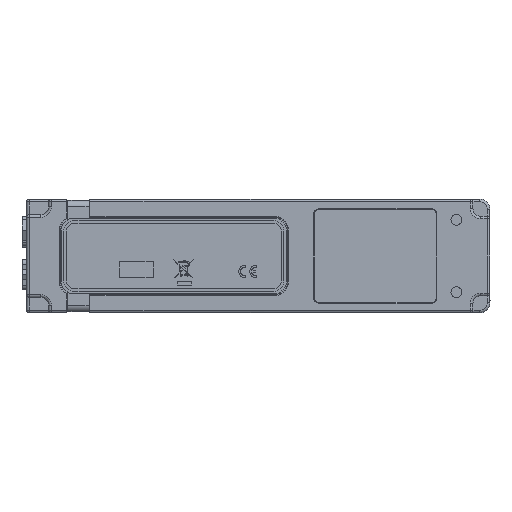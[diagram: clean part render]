
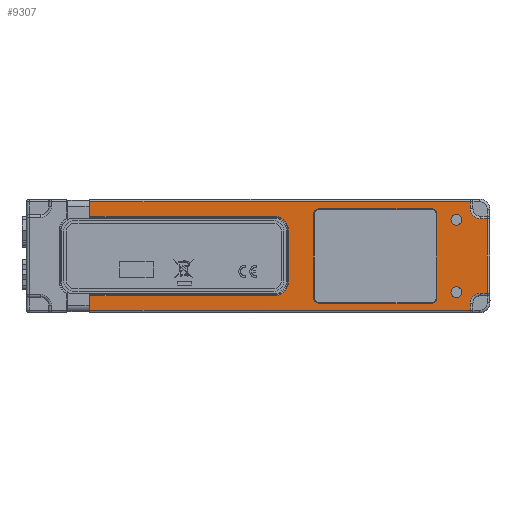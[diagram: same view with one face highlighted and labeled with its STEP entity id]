
A CAD part, left-side view. The second image highlights one B-rep face of the part: STEP entity #9307.
In plain terms, the highlighted planar face has unit normal (-1, 0, 0).
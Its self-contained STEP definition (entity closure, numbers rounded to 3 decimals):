
#7644=CIRCLE('',#44879,1.8);
#7647=CIRCLE('',#44884,1.8);
#7650=CIRCLE('',#44889,1.8);
#7652=CIRCLE('',#44893,1.8);
#7656=CIRCLE('',#44899,4.);
#7659=CIRCLE('',#44905,4.);
#7663=CIRCLE('',#44910,5.3);
#7666=CIRCLE('',#44915,5.3);
#7667=CIRCLE('',#44917,2.1);
#7668=CIRCLE('',#44919,2.1);
#9307=ADVANCED_FACE('',(#10590,#10591,#10592,#10593),#10042,.T.);
#10042=PLANE('',#44965);
#10590=FACE_BOUND('',#11474,.T.);
#10591=FACE_BOUND('',#11475,.T.);
#10592=FACE_BOUND('',#11476,.T.);
#10593=FACE_BOUND('',#11477,.T.);
#11474=EDGE_LOOP('',(#26600,#26601,#26602,#26603,#26604,#26605,#26606,#26607));
#11475=EDGE_LOOP('',(#26608,#26609,#26610,#26611,#26612,#26613,#26614,#26615,
#26616,#26617,#26618,#26619,#26620,#26621,#26622,#26623));
#11476=EDGE_LOOP('',(#26624));
#11477=EDGE_LOOP('',(#26625));
#26600=ORIENTED_EDGE('',*,*,#39496,.T.);
#26601=ORIENTED_EDGE('',*,*,#39498,.T.);
#26602=ORIENTED_EDGE('',*,*,#39500,.T.);
#26603=ORIENTED_EDGE('',*,*,#39502,.T.);
#26604=ORIENTED_EDGE('',*,*,#39504,.T.);
#26605=ORIENTED_EDGE('',*,*,#39506,.T.);
#26606=ORIENTED_EDGE('',*,*,#39508,.T.);
#26607=ORIENTED_EDGE('',*,*,#39509,.T.);
#26608=ORIENTED_EDGE('',*,*,#39567,.T.);
#26609=ORIENTED_EDGE('',*,*,#39602,.T.);
#26610=ORIENTED_EDGE('',*,*,#39603,.T.);
#26611=ORIENTED_EDGE('',*,*,#39511,.T.);
#26612=ORIENTED_EDGE('',*,*,#39515,.T.);
#26613=ORIENTED_EDGE('',*,*,#39516,.T.);
#26614=ORIENTED_EDGE('',*,*,#39551,.T.);
#26615=ORIENTED_EDGE('',*,*,#39518,.T.);
#26616=ORIENTED_EDGE('',*,*,#39521,.T.);
#26617=ORIENTED_EDGE('',*,*,#39533,.T.);
#26618=ORIENTED_EDGE('',*,*,#39604,.T.);
#26619=ORIENTED_EDGE('',*,*,#39605,.T.);
#26620=ORIENTED_EDGE('',*,*,#39601,.T.);
#26621=ORIENTED_EDGE('',*,*,#39525,.T.);
#26622=ORIENTED_EDGE('',*,*,#39527,.T.);
#26623=ORIENTED_EDGE('',*,*,#39529,.T.);
#26624=ORIENTED_EDGE('',*,*,#39530,.T.);
#26625=ORIENTED_EDGE('',*,*,#39531,.T.);
#33507=VERTEX_POINT('',#78937);
#33510=VERTEX_POINT('',#78944);
#33540=VERTEX_POINT('',#79021);
#33541=VERTEX_POINT('',#79023);
#33542=VERTEX_POINT('',#79027);
#33543=VERTEX_POINT('',#79031);
#33544=VERTEX_POINT('',#79035);
#33545=VERTEX_POINT('',#79039);
#33546=VERTEX_POINT('',#79043);
#33547=VERTEX_POINT('',#79047);
#33548=VERTEX_POINT('',#79053);
#33549=VERTEX_POINT('',#79055);
#33551=VERTEX_POINT('',#79061);
#33553=VERTEX_POINT('',#79068);
#33555=VERTEX_POINT('',#79074);
#33556=VERTEX_POINT('',#79079);
#33557=VERTEX_POINT('',#79081);
#33558=VERTEX_POINT('',#79085);
#33559=VERTEX_POINT('',#79089);
#33560=VERTEX_POINT('',#79093);
#33561=VERTEX_POINT('',#79096);
#33563=VERTEX_POINT('',#79100);
#33583=VERTEX_POINT('',#79181);
#33604=VERTEX_POINT('',#79249);
#33605=VERTEX_POINT('',#79253);
#33606=VERTEX_POINT('',#79256);
#39496=EDGE_CURVE('',#33540,#33541,#41467,.T.);
#39498=EDGE_CURVE('',#33541,#33542,#7644,.T.);
#39500=EDGE_CURVE('',#33542,#33543,#41468,.T.);
#39502=EDGE_CURVE('',#33543,#33544,#7647,.T.);
#39504=EDGE_CURVE('',#33544,#33545,#41469,.T.);
#39506=EDGE_CURVE('',#33545,#33546,#7650,.T.);
#39508=EDGE_CURVE('',#33546,#33547,#41470,.T.);
#39509=EDGE_CURVE('',#33547,#33540,#7652,.T.);
#39511=EDGE_CURVE('',#33549,#33548,#41471,.T.);
#39515=EDGE_CURVE('',#33548,#33551,#7656,.T.);
#39516=EDGE_CURVE('',#33551,#33510,#41473,.T.);
#39518=EDGE_CURVE('',#33507,#33553,#41474,.T.);
#39521=EDGE_CURVE('',#33553,#33555,#7659,.T.);
#39525=EDGE_CURVE('',#33556,#33557,#7663,.T.);
#39527=EDGE_CURVE('',#33557,#33558,#41476,.T.);
#39529=EDGE_CURVE('',#33558,#33559,#7666,.T.);
#39530=EDGE_CURVE('',#33560,#33560,#7667,.T.);
#39531=EDGE_CURVE('',#33561,#33561,#7668,.T.);
#39533=EDGE_CURVE('',#33555,#33563,#41477,.T.);
#39551=EDGE_CURVE('',#33510,#33507,#41490,.T.);
#39567=EDGE_CURVE('',#33559,#33583,#41501,.T.);
#39601=EDGE_CURVE('',#33604,#33556,#41527,.T.);
#39602=EDGE_CURVE('',#33583,#33605,#41528,.T.);
#39603=EDGE_CURVE('',#33605,#33549,#41529,.T.);
#39604=EDGE_CURVE('',#33563,#33606,#41530,.T.);
#39605=EDGE_CURVE('',#33606,#33604,#41531,.T.);
#41467=LINE('',#79024,#43266);
#41468=LINE('',#79032,#43267);
#41469=LINE('',#79040,#43268);
#41470=LINE('',#79048,#43269);
#41471=LINE('',#79054,#43270);
#41473=LINE('',#79064,#43272);
#41474=LINE('',#79069,#43273);
#41476=LINE('',#79086,#43275);
#41477=LINE('',#79101,#43276);
#41490=LINE('',#79151,#43289);
#41501=LINE('',#79182,#43300);
#41527=LINE('',#79250,#43326);
#41528=LINE('',#79252,#43327);
#41529=LINE('',#79254,#43328);
#41530=LINE('',#79255,#43329);
#41531=LINE('',#79257,#43330);
#43266=VECTOR('',#48702,1.);
#43267=VECTOR('',#48713,1.);
#43268=VECTOR('',#48724,1.);
#43269=VECTOR('',#48735,1.);
#43270=VECTOR('',#48744,1.);
#43272=VECTOR('',#48756,1.);
#43273=VECTOR('',#48761,1.);
#43275=VECTOR('',#48783,1.);
#43276=VECTOR('',#48802,1.);
#43289=VECTOR('',#48839,1.);
#43300=VECTOR('',#48868,1.);
#43326=VECTOR('',#48936,1.);
#43327=VECTOR('',#48939,1.);
#43328=VECTOR('',#48940,1.);
#43329=VECTOR('',#48941,1.);
#43330=VECTOR('',#48942,1.);
#44879=AXIS2_PLACEMENT_3D('',#79028,#48707,#48708);
#44884=AXIS2_PLACEMENT_3D('',#79036,#48718,#48719);
#44889=AXIS2_PLACEMENT_3D('',#79044,#48729,#48730);
#44893=AXIS2_PLACEMENT_3D('',#79050,#48738,#48739);
#44899=AXIS2_PLACEMENT_3D('',#79062,#48752,#48753);
#44905=AXIS2_PLACEMENT_3D('',#79075,#48767,#48768);
#44910=AXIS2_PLACEMENT_3D('',#79082,#48777,#48778);
#44915=AXIS2_PLACEMENT_3D('',#79090,#48788,#48789);
#44917=AXIS2_PLACEMENT_3D('',#79092,#48792,#48793);
#44919=AXIS2_PLACEMENT_3D('',#79095,#48796,#48797);
#44965=AXIS2_PLACEMENT_3D('',#79258,#48943,#48944);
#48702=DIRECTION('',(0.,0.,1.));
#48707=DIRECTION('',(1.,0.,0.));
#48708=DIRECTION('',(0.,-1.,0.));
#48713=DIRECTION('',(0.,-1.,0.));
#48718=DIRECTION('',(1.,0.,0.));
#48719=DIRECTION('',(0.,-1.,0.));
#48724=DIRECTION('',(0.,0.,-1.));
#48729=DIRECTION('',(1.,0.,0.));
#48730=DIRECTION('',(0.,-1.,0.));
#48735=DIRECTION('',(0.,1.,0.));
#48738=DIRECTION('',(1.,0.,0.));
#48739=DIRECTION('',(0.,-1.,0.));
#48744=DIRECTION('',(0.,0.,1.));
#48752=DIRECTION('',(1.,0.,0.));
#48753=DIRECTION('',(0.,-1.,0.));
#48756=DIRECTION('',(0.,-1.,0.));
#48761=DIRECTION('',(0.,1.,0.));
#48767=DIRECTION('',(1.,0.,0.));
#48768=DIRECTION('',(0.,-1.,0.));
#48777=DIRECTION('',(1.,0.,0.));
#48778=DIRECTION('',(0.,-1.,0.));
#48783=DIRECTION('',(0.,0.,-1.));
#48788=DIRECTION('',(1.,0.,0.));
#48789=DIRECTION('',(0.,-1.,0.));
#48792=DIRECTION('',(1.,0.,0.));
#48793=DIRECTION('',(0.,1.,0.));
#48796=DIRECTION('',(1.,0.,0.));
#48797=DIRECTION('',(0.,1.,0.));
#48802=DIRECTION('',(0.,0.,1.));
#48839=DIRECTION('',(0.,0.,1.));
#48868=DIRECTION('',(0.,1.,0.));
#48936=DIRECTION('',(0.,-1.,0.));
#48939=DIRECTION('',(0.,0.,-1.));
#48940=DIRECTION('',(0.,-1.,0.));
#48941=DIRECTION('',(0.,1.,0.));
#48942=DIRECTION('',(0.,0.,-1.));
#48943=DIRECTION('',(-1.,0.,0.));
#48944=DIRECTION('',(0.,-1.,0.));
#78937=CARTESIAN_POINT('',(-292.,1.008,36.443));
#78944=CARTESIAN_POINT('',(-292.,1.008,7.643));
#79021=CARTESIAN_POINT('',(-292.,68.158,5.643));
#79023=CARTESIAN_POINT('',(-292.,68.158,38.443));
#79024=CARTESIAN_POINT('',(-292.,68.158,38.443));
#79027=CARTESIAN_POINT('',(-292.,66.358,40.243));
#79028=CARTESIAN_POINT('',(-292.,66.358,38.443));
#79031=CARTESIAN_POINT('',(-292.,22.358,40.243));
#79032=CARTESIAN_POINT('',(-292.,22.358,40.243));
#79035=CARTESIAN_POINT('',(-292.,20.558,38.443));
#79036=CARTESIAN_POINT('',(-292.,22.358,38.443));
#79039=CARTESIAN_POINT('',(-292.,20.558,5.643));
#79040=CARTESIAN_POINT('',(-292.,20.558,5.643));
#79043=CARTESIAN_POINT('',(-292.,22.358,3.843));
#79044=CARTESIAN_POINT('',(-292.,22.358,5.643));
#79047=CARTESIAN_POINT('',(-292.,66.358,3.843));
#79048=CARTESIAN_POINT('',(-292.,66.358,3.843));
#79050=CARTESIAN_POINT('',(-292.,66.358,5.643));
#79053=CARTESIAN_POINT('',(-292.,7.608,3.643));
#79054=CARTESIAN_POINT('',(-292.,7.608,3.643));
#79055=CARTESIAN_POINT('',(-292.,7.608,1.043));
#79061=CARTESIAN_POINT('',(-292.,3.608,7.643));
#79062=CARTESIAN_POINT('',(-292.,3.608,3.643));
#79064=CARTESIAN_POINT('',(-292.,0.008,7.643));
#79068=CARTESIAN_POINT('',(-292.,3.608,36.443));
#79069=CARTESIAN_POINT('',(-292.,3.608,36.443));
#79074=CARTESIAN_POINT('',(-292.,7.608,40.443));
#79075=CARTESIAN_POINT('',(-292.,3.608,40.443));
#79079=CARTESIAN_POINT('',(-292.,83.358,37.343));
#79081=CARTESIAN_POINT('',(-292.,78.058,32.043));
#79082=CARTESIAN_POINT('',(-292.,83.358,32.043));
#79085=CARTESIAN_POINT('',(-292.,78.058,12.043));
#79086=CARTESIAN_POINT('',(-292.,78.058,12.043));
#79089=CARTESIAN_POINT('',(-292.,83.358,6.743));
#79090=CARTESIAN_POINT('',(-292.,83.358,12.043));
#79092=CARTESIAN_POINT('',(-292.,13.008,36.043));
#79093=CARTESIAN_POINT('',(-292.,15.108,36.043));
#79095=CARTESIAN_POINT('',(-292.,13.008,8.043));
#79096=CARTESIAN_POINT('',(-292.,15.108,8.043));
#79100=CARTESIAN_POINT('',(-292.,7.608,43.043));
#79101=CARTESIAN_POINT('',(-292.,7.608,44.043));
#79151=CARTESIAN_POINT('',(-292.,1.008,22.043));
#79181=CARTESIAN_POINT('',(-292.,154.808,6.743));
#79182=CARTESIAN_POINT('',(-292.,155.108,6.743));
#79249=CARTESIAN_POINT('',(-292.,154.808,37.343));
#79250=CARTESIAN_POINT('',(-292.,83.358,37.343));
#79252=CARTESIAN_POINT('',(-292.,154.808,1.043));
#79253=CARTESIAN_POINT('',(-292.,154.808,1.043));
#79254=CARTESIAN_POINT('',(-292.,89.683,1.043));
#79255=CARTESIAN_POINT('',(-292.,89.683,43.043));
#79256=CARTESIAN_POINT('',(-292.,154.808,43.043));
#79257=CARTESIAN_POINT('',(-292.,154.808,37.043));
#79258=CARTESIAN_POINT('',(-292.,89.683,22.043));
